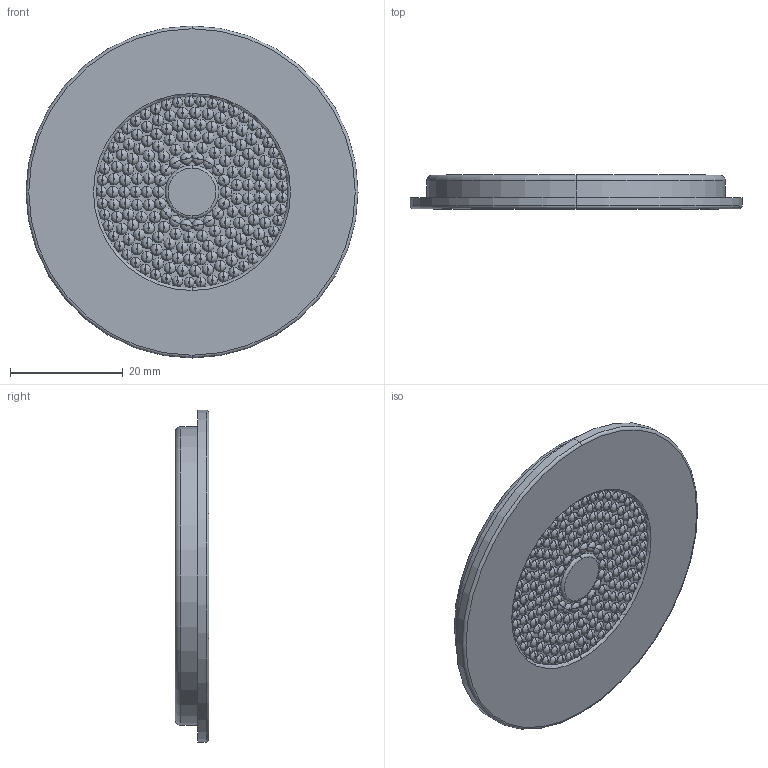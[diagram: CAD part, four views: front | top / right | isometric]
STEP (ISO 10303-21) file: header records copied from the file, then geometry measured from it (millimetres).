
FILE_DESCRIPTION (( 'STEP AP214' ), '1' );
FILE_NAME ('GOMAAV063.STEP', '2024-01-24T15:48:59', ( '' ), ( '' ), 'SwSTEP 2.0', 'SolidWorks 2022', '' );
FILE_SCHEMA (( 'AUTOMOTIVE_DESIGN' ));
Length unit declared in the file: millimetre
Products named in the file (1): GOMAAV063
Bounding box: 59 x 6 x 59 mm (x, y, z)
Volume: 13260.7 mm3; surface area: 6774.3 mm2
Topology: 1 solids, 1 shells, 597 faces, 1192 edges, 792 vertices
Faces by surface type: torus 394, plane 197, cylinder 6
Entity records: 16322 total; most frequent: DIRECTION 3574, CARTESIAN_POINT 2582, ORIENTED_EDGE 2384, AXIS2_PLACEMENT_3D 1784, EDGE_CURVE 1192, CIRCLE 1186, EDGE_LOOP 792, VERTEX_POINT 792
